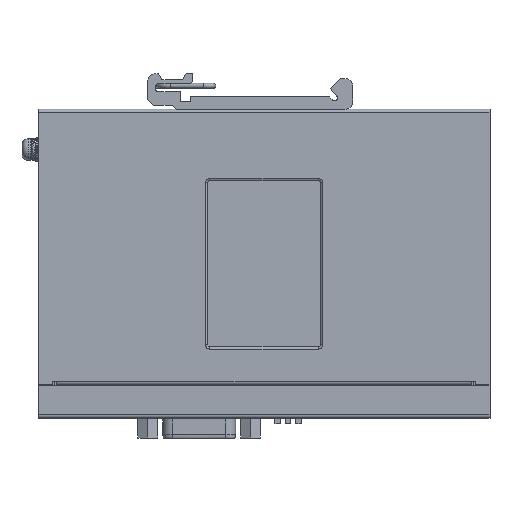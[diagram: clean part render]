
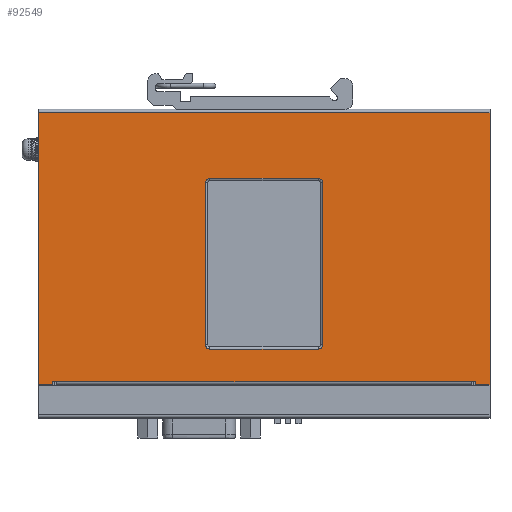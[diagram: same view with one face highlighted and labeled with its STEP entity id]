
A CAD part, top view. The second image highlights one B-rep face of the part: STEP entity #92549.
In plain terms, the highlighted planar face has unit normal (0, 0, 1).
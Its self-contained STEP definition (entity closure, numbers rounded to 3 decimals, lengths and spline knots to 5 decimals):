
#1870=CIRCLE('',#98726,0.001);
#1873=CIRCLE('',#98731,0.001);
#1876=CIRCLE('',#98736,0.001);
#1878=CIRCLE('',#98740,0.001);
#13791=ORIENTED_EDGE('',*,*,#34764,.T.);
#13792=ORIENTED_EDGE('',*,*,#34762,.T.);
#13793=ORIENTED_EDGE('',*,*,#34760,.T.);
#13794=ORIENTED_EDGE('',*,*,#34758,.T.);
#13795=ORIENTED_EDGE('',*,*,#34756,.T.);
#13796=ORIENTED_EDGE('',*,*,#34754,.T.);
#13797=ORIENTED_EDGE('',*,*,#34752,.T.);
#13798=ORIENTED_EDGE('',*,*,#34765,.T.);
#13799=ORIENTED_EDGE('',*,*,#34805,.T.);
#13800=ORIENTED_EDGE('',*,*,#34801,.F.);
#13801=ORIENTED_EDGE('',*,*,#34798,.T.);
#13802=ORIENTED_EDGE('',*,*,#34795,.T.);
#13803=ORIENTED_EDGE('',*,*,#34817,.T.);
#13804=ORIENTED_EDGE('',*,*,#34818,.T.);
#13805=ORIENTED_EDGE('',*,*,#34819,.F.);
#13806=ORIENTED_EDGE('',*,*,#34809,.T.);
#13807=ORIENTED_EDGE('',*,*,#34813,.T.);
#13808=ORIENTED_EDGE('',*,*,#34815,.F.);
#34752=EDGE_CURVE('',#46174,#46175,#55985,.T.);
#34754=EDGE_CURVE('',#46176,#46174,#1870,.T.);
#34756=EDGE_CURVE('',#46177,#46176,#55986,.T.);
#34758=EDGE_CURVE('',#46178,#46177,#1873,.T.);
#34760=EDGE_CURVE('',#46179,#46178,#55987,.T.);
#34762=EDGE_CURVE('',#46180,#46179,#1876,.T.);
#34764=EDGE_CURVE('',#46181,#46180,#55988,.T.);
#34765=EDGE_CURVE('',#46175,#46181,#1878,.T.);
#34795=EDGE_CURVE('',#46204,#46203,#56010,.T.);
#34798=EDGE_CURVE('',#46206,#46204,#56013,.T.);
#34801=EDGE_CURVE('',#46206,#46208,#56016,.T.);
#34805=EDGE_CURVE('',#46209,#46208,#56019,.T.);
#34809=EDGE_CURVE('',#46212,#46211,#56022,.T.);
#34813=EDGE_CURVE('',#46211,#46215,#56026,.T.);
#34815=EDGE_CURVE('',#46209,#46215,#56028,.T.);
#34817=EDGE_CURVE('',#46203,#46216,#56030,.T.);
#34818=EDGE_CURVE('',#46216,#46217,#56031,.T.);
#34819=EDGE_CURVE('',#46212,#46217,#56032,.T.);
#46174=VERTEX_POINT('',#139788);
#46175=VERTEX_POINT('',#139790);
#46176=VERTEX_POINT('',#139794);
#46177=VERTEX_POINT('',#139798);
#46178=VERTEX_POINT('',#139802);
#46179=VERTEX_POINT('',#139806);
#46180=VERTEX_POINT('',#139810);
#46181=VERTEX_POINT('',#139814);
#46203=VERTEX_POINT('',#139878);
#46204=VERTEX_POINT('',#139880);
#46206=VERTEX_POINT('',#139886);
#46208=VERTEX_POINT('',#139892);
#46209=VERTEX_POINT('',#139899);
#46211=VERTEX_POINT('',#139906);
#46212=VERTEX_POINT('',#139908);
#46215=VERTEX_POINT('',#139915);
#46216=VERTEX_POINT('',#139923);
#46217=VERTEX_POINT('',#139925);
#55985=LINE('',#139791,#67740);
#55986=LINE('',#139799,#67741);
#55987=LINE('',#139807,#67742);
#55988=LINE('',#139815,#67743);
#56010=LINE('',#139879,#67765);
#56013=LINE('',#139885,#67768);
#56016=LINE('',#139891,#67771);
#56019=LINE('',#139898,#67774);
#56022=LINE('',#139907,#67777);
#56026=LINE('',#139916,#67781);
#56028=LINE('',#139919,#67783);
#56030=LINE('',#139922,#67785);
#56031=LINE('',#139924,#67786);
#56032=LINE('',#139926,#67787);
#67740=VECTOR('',#112852,1.);
#67741=VECTOR('',#112863,1.);
#67742=VECTOR('',#112874,1.);
#67743=VECTOR('',#112885,1.);
#67765=VECTOR('',#112947,1.);
#67768=VECTOR('',#112952,1.);
#67771=VECTOR('',#112957,1.);
#67774=VECTOR('',#112966,1.);
#67777=VECTOR('',#112975,1.);
#67781=VECTOR('',#112981,1.);
#67783=VECTOR('',#112985,1.);
#67785=VECTOR('',#112989,1.);
#67786=VECTOR('',#112990,1.);
#67787=VECTOR('',#112991,1.);
#77312=EDGE_LOOP('',(#13791,#13792,#13793,#13794,#13795,#13796,#13797,#13798));
#77313=EDGE_LOOP('',(#13799,#13800,#13801,#13802,#13803,#13804,#13805,#13806,
#13807,#13808));
#82951=FACE_BOUND('',#77312,.T.);
#82952=FACE_BOUND('',#77313,.T.);
#87850=PLANE('',#98769);
#92549=ADVANCED_FACE('',(#82951,#82952),#87850,.F.);
#98726=AXIS2_PLACEMENT_3D('',#139795,#112857,#112858);
#98731=AXIS2_PLACEMENT_3D('',#139803,#112868,#112869);
#98736=AXIS2_PLACEMENT_3D('',#139811,#112879,#112880);
#98740=AXIS2_PLACEMENT_3D('',#139817,#112888,#112889);
#98769=AXIS2_PLACEMENT_3D('',#139921,#112987,#112988);
#112852=DIRECTION('',(1.,0.,0.));
#112857=DIRECTION('',(0.,0.,-1.));
#112858=DIRECTION('',(-1.,0.,0.));
#112863=DIRECTION('',(0.,1.,0.));
#112868=DIRECTION('',(0.,0.,-1.));
#112869=DIRECTION('',(0.,-1.,0.));
#112874=DIRECTION('',(-1.,0.,0.));
#112879=DIRECTION('',(0.,0.,-1.));
#112880=DIRECTION('',(1.,0.,0.));
#112885=DIRECTION('',(0.,-1.,0.));
#112888=DIRECTION('',(0.,0.,-1.));
#112889=DIRECTION('',(0.,1.,0.));
#112947=DIRECTION('',(1.,0.,0.));
#112952=DIRECTION('',(0.,-1.,0.));
#112957=DIRECTION('',(-1.,0.,0.));
#112966=DIRECTION('',(1.,0.,0.));
#112975=DIRECTION('',(1.,0.,0.));
#112981=DIRECTION('',(0.,1.,0.));
#112985=DIRECTION('',(-1.,0.,0.));
#112987=DIRECTION('',(0.,0.,-1.));
#112988=DIRECTION('',(-1.,0.,0.));
#112989=DIRECTION('',(0.,1.,0.));
#112990=DIRECTION('',(-1.,0.,0.));
#112991=DIRECTION('',(0.,1.,0.));
#139788=CARTESIAN_POINT('',(0.03425,0.05555,0.));
#139790=CARTESIAN_POINT('',(0.06075,0.05555,0.));
#139791=CARTESIAN_POINT('',(0.03425,0.05555,0.));
#139794=CARTESIAN_POINT('',(0.03325,0.05455,0.));
#139795=CARTESIAN_POINT('',(0.03425,0.05455,0.));
#139798=CARTESIAN_POINT('',(0.03325,0.01505,0.));
#139799=CARTESIAN_POINT('',(0.03325,0.01505,0.));
#139802=CARTESIAN_POINT('',(0.03425,0.01405,0.));
#139803=CARTESIAN_POINT('',(0.03425,0.01505,0.));
#139806=CARTESIAN_POINT('',(0.06075,0.01405,0.));
#139807=CARTESIAN_POINT('',(0.06075,0.01405,0.));
#139810=CARTESIAN_POINT('',(0.06175,0.01505,0.));
#139811=CARTESIAN_POINT('',(0.06075,0.01505,0.));
#139814=CARTESIAN_POINT('',(0.06175,0.05455,0.));
#139815=CARTESIAN_POINT('',(0.06175,0.05455,0.));
#139817=CARTESIAN_POINT('',(0.06075,0.05455,0.));
#139878=CARTESIAN_POINT('',(0.1025,0.0053,0.));
#139879=CARTESIAN_POINT('',(0.0989,0.0053,0.));
#139880=CARTESIAN_POINT('',(0.0989,0.0053,0.));
#139885=CARTESIAN_POINT('',(0.0989,0.0061,0.));
#139886=CARTESIAN_POINT('',(0.0989,0.0061,0.));
#139891=CARTESIAN_POINT('',(0.0989,0.0061,0.));
#139892=CARTESIAN_POINT('',(0.0979,0.0061,0.));
#139898=CARTESIAN_POINT('',(-0.0029,0.0061,0.));
#139899=CARTESIAN_POINT('',(-0.0029,0.0061,0.));
#139906=CARTESIAN_POINT('',(-0.0039,0.0053,0.));
#139907=CARTESIAN_POINT('',(-0.0075,0.0053,0.));
#139908=CARTESIAN_POINT('',(-0.0075,0.0053,0.));
#139915=CARTESIAN_POINT('',(-0.0039,0.0061,0.));
#139916=CARTESIAN_POINT('',(-0.0039,0.0053,0.));
#139919=CARTESIAN_POINT('',(-0.0029,0.0061,0.));
#139921=CARTESIAN_POINT('',(0.0475,0.03925,0.));
#139922=CARTESIAN_POINT('',(0.1025,0.0053,0.));
#139923=CARTESIAN_POINT('',(0.1025,0.0716,0.));
#139924=CARTESIAN_POINT('',(0.1025,0.0716,0.));
#139925=CARTESIAN_POINT('',(-0.0075,0.0716,0.));
#139926=CARTESIAN_POINT('',(-0.0075,0.0053,0.));
